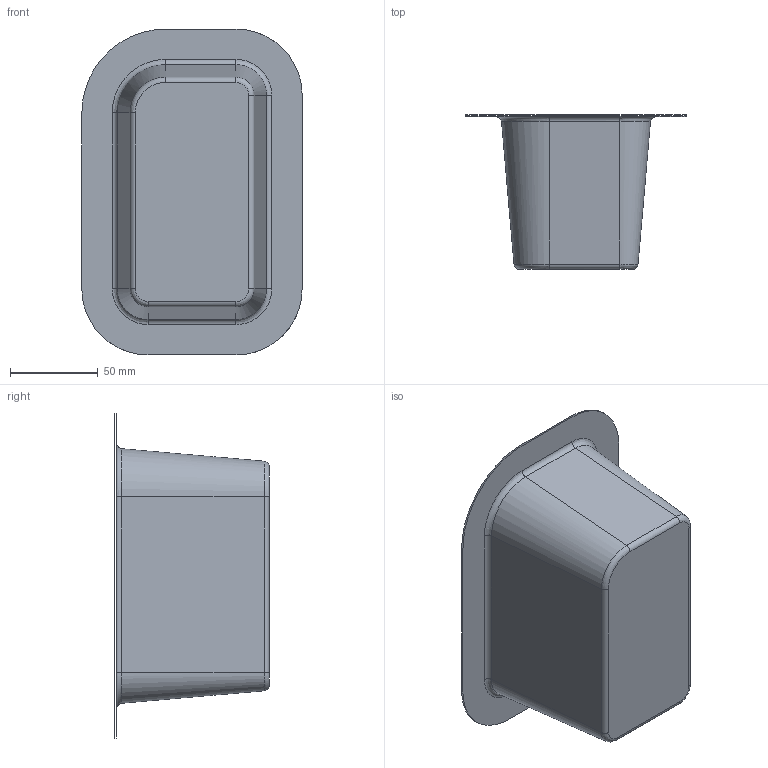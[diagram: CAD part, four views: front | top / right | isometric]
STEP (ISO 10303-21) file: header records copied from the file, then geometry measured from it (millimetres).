
FILE_DESCRIPTION(('CATIA V5 STEP Exchange'),'2;1');
FILE_NAME('C:\_Andres\UNIVERSIDAD\IQS\ASIGNATURAS\DAO\Controles\1617\c3\2inicio\Salazar_Martin_control3_v30.stp','2017-02-17T14:22:13+00:00',('none'),('none'),'CATIA Version 5-6 Release 2014 SP1 HF18','CATIA V5 STEP AP203','none');
FILE_SCHEMA(('CONFIG_CONTROL_DESIGN'));
Length unit declared in the file: millimetre
Products named in the file (1): Salazar_Martin_control3_v30
Bounding box: 125.17 x 87.67 x 185.17 mm (x, y, z)
Surface area: 74673.6 mm2 (no closed solid volume)
Topology: 0 solids, 2 shells, 27 faces, 80 edges, 57 vertices
Faces by surface type: bspline 16, cylinder 8, plane 3
Entity records: 1931 total; most frequent: CARTESIAN_POINT 1335, ORIENTED_EDGE 128, EDGE_CURVE 72, B_SPLINE_CURVE_WITH_KNOTS 54, DIRECTION 50, VERTEX_POINT 48, EDGE_LOOP 28, ADVANCED_FACE 27
